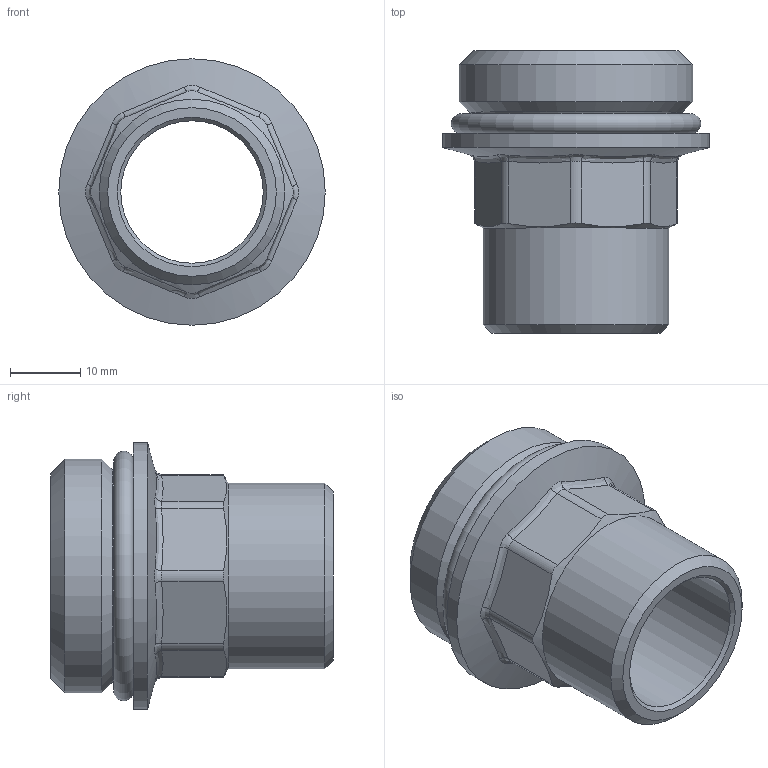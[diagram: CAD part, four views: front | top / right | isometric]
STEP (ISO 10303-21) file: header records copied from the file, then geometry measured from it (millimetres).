
FILE_DESCRIPTION(('STEP AP242'), '1');
FILE_NAME('覆.302634.093.000 捘 - VTr.601.N.0605', '', ('UNSPECIFIED'), ('UNSPECIFIED'), 'C3D Converter', 'C3D Toolkit', '');
FILE_SCHEMA(('AP242_MANAGED_MODEL_BASED_3D_ENGINEERING_MIM_LF { 1 0 10303 442 1 1 4 }'));
Length unit declared in the file: millimetre
Products named in the file (3): ВР.302634.093.000 СБ; ВР.753157.026
Assembly tree (2 placements, depth 2):
  ВР.302634.093.000 СБ
    ВР.753157.026
    (unnamed)
Bounding box: 38 x 40.3 x 38 mm (x, y, z)
Volume: 12499.4 mm3; surface area: 8726.2 mm2
Topology: 2 solids, 2 shells, 52 faces, 130 edges, 83 vertices
Faces by surface type: bspline 16, cylinder 14, plane 11, cone 8, torus 3
Full cylindrical faces by diameter (mm): 20.3 x1, 25.5 x1, 26.441 x1, 30 x1, 33.249 x1, 38 x1
Entity records: 3441 total; most frequent: CARTESIAN_POINT 2281, ORIENTED_EDGE 204, DIRECTION 150, EDGE_CURVE 102, EDGE_LOOP 70, VERTEX_POINT 70, B_SPLINE_CURVE_WITH_KNOTS 68, AXIS2_PLACEMENT_3D 67
